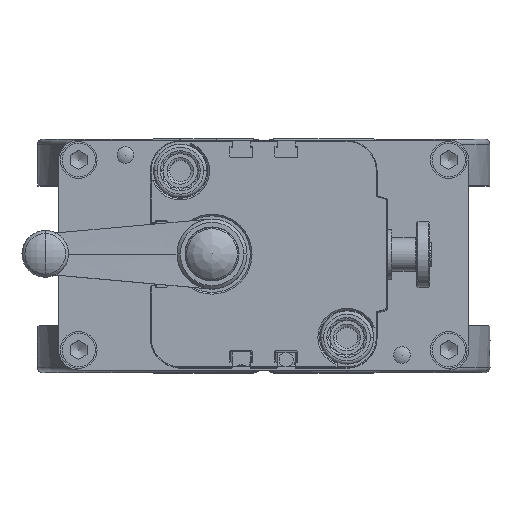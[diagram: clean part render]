
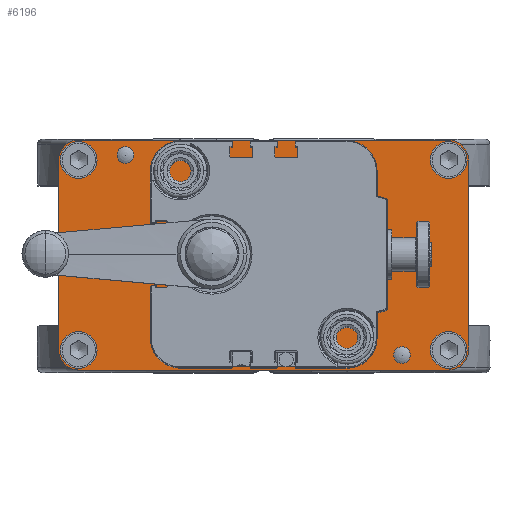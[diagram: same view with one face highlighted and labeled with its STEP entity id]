
A CAD part, top view. The second image highlights one B-rep face of the part: STEP entity #6196.
In plain terms, the highlighted planar face has unit normal (0, 0, 1).
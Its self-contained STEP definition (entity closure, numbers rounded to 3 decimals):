
#4150=FACE_BOUND('',#8778,.T.);
#4151=FACE_BOUND('',#8779,.T.);
#4152=FACE_BOUND('',#8780,.T.);
#4153=FACE_BOUND('',#8781,.T.);
#4154=FACE_BOUND('',#8782,.T.);
#4155=FACE_BOUND('',#8783,.T.);
#4156=FACE_BOUND('',#8784,.T.);
#4157=FACE_BOUND('',#8785,.T.);
#4158=FACE_BOUND('',#8786,.T.);
#4159=FACE_BOUND('',#8787,.T.);
#5320=CIRCLE('',#23964,15.006);
#5323=CIRCLE('',#23968,3.25);
#5324=CIRCLE('',#23969,6.);
#5325=CIRCLE('',#23970,6.);
#5326=CIRCLE('',#23971,6.);
#5327=CIRCLE('',#23972,6.);
#5328=CIRCLE('',#23973,3.25);
#5329=CIRCLE('',#23974,3.25);
#5330=CIRCLE('',#23975,2.488);
#5331=CIRCLE('',#23976,3.25);
#5332=CIRCLE('',#23977,3.25);
#5333=CIRCLE('',#23978,2.488);
#5334=CIRCLE('',#23979,3.25);
#6196=ADVANCED_FACE('',(#4150,#4151,#4152,#4153,#4154,#4155,#4156,#4157,
#4158,#4159),#7112,.F.);
#7112=PLANE('',#23980);
#8778=EDGE_LOOP('',(#14237));
#8779=EDGE_LOOP('',(#14238,#14239,#14240,#14241,#14242,#14243,#14244,#14245));
#8780=EDGE_LOOP('',(#14246));
#8781=EDGE_LOOP('',(#14247));
#8782=EDGE_LOOP('',(#14248));
#8783=EDGE_LOOP('',(#14249));
#8784=EDGE_LOOP('',(#14250));
#8785=EDGE_LOOP('',(#14251));
#8786=EDGE_LOOP('',(#14252));
#8787=EDGE_LOOP('',(#14253));
#10109=LINE('',#44206,#11709);
#10114=LINE('',#44216,#11714);
#10121=LINE('',#44236,#11721);
#10122=LINE('',#44242,#11722);
#11709=VECTOR('',#26158,1.);
#11714=VECTOR('',#26165,1.);
#11721=VECTOR('',#26184,1.);
#11722=VECTOR('',#26189,1.);
#14237=ORIENTED_EDGE('',*,*,#21181,.F.);
#14238=ORIENTED_EDGE('',*,*,#21182,.F.);
#14239=ORIENTED_EDGE('',*,*,#21183,.F.);
#14240=ORIENTED_EDGE('',*,*,#21171,.F.);
#14241=ORIENTED_EDGE('',*,*,#21184,.F.);
#14242=ORIENTED_EDGE('',*,*,#21185,.F.);
#14243=ORIENTED_EDGE('',*,*,#21186,.F.);
#14244=ORIENTED_EDGE('',*,*,#21166,.F.);
#14245=ORIENTED_EDGE('',*,*,#21187,.F.);
#14246=ORIENTED_EDGE('',*,*,#21188,.T.);
#14247=ORIENTED_EDGE('',*,*,#21189,.T.);
#14248=ORIENTED_EDGE('',*,*,#21190,.T.);
#14249=ORIENTED_EDGE('',*,*,#21191,.T.);
#14250=ORIENTED_EDGE('',*,*,#21174,.F.);
#14251=ORIENTED_EDGE('',*,*,#21192,.T.);
#14252=ORIENTED_EDGE('',*,*,#21193,.T.);
#14253=ORIENTED_EDGE('',*,*,#21194,.F.);
#19041=VERTEX_POINT('',#44205);
#19042=VERTEX_POINT('',#44207);
#19045=VERTEX_POINT('',#44215);
#19046=VERTEX_POINT('',#44217);
#19047=VERTEX_POINT('',#44222);
#19052=VERTEX_POINT('',#44235);
#19053=VERTEX_POINT('',#44237);
#19054=VERTEX_POINT('',#44238);
#19055=VERTEX_POINT('',#44241);
#19056=VERTEX_POINT('',#44243);
#19057=VERTEX_POINT('',#44247);
#19058=VERTEX_POINT('',#44249);
#19059=VERTEX_POINT('',#44251);
#19060=VERTEX_POINT('',#44253);
#19061=VERTEX_POINT('',#44255);
#19062=VERTEX_POINT('',#44257);
#19063=VERTEX_POINT('',#44259);
#21166=EDGE_CURVE('',#19041,#19042,#10109,.T.);
#21171=EDGE_CURVE('',#19045,#19046,#10114,.T.);
#21174=EDGE_CURVE('',#19047,#19047,#5320,.T.);
#21181=EDGE_CURVE('',#19052,#19052,#5323,.T.);
#21182=EDGE_CURVE('',#19053,#19054,#10121,.T.);
#21183=EDGE_CURVE('',#19046,#19053,#5324,.T.);
#21184=EDGE_CURVE('',#19055,#19045,#5325,.T.);
#21185=EDGE_CURVE('',#19056,#19055,#10122,.T.);
#21186=EDGE_CURVE('',#19042,#19056,#5326,.T.);
#21187=EDGE_CURVE('',#19054,#19041,#5327,.T.);
#21188=EDGE_CURVE('',#19057,#19057,#5328,.T.);
#21189=EDGE_CURVE('',#19058,#19058,#5329,.T.);
#21190=EDGE_CURVE('',#19059,#19059,#5330,.T.);
#21191=EDGE_CURVE('',#19060,#19060,#5331,.T.);
#21192=EDGE_CURVE('',#19061,#19061,#5332,.T.);
#21193=EDGE_CURVE('',#19062,#19062,#5333,.T.);
#21194=EDGE_CURVE('',#19063,#19063,#5334,.T.);
#23964=AXIS2_PLACEMENT_3D('',#44221,#26170,#26171);
#23968=AXIS2_PLACEMENT_3D('',#44234,#26182,#26183);
#23969=AXIS2_PLACEMENT_3D('',#44239,#26185,#26186);
#23970=AXIS2_PLACEMENT_3D('',#44240,#26187,#26188);
#23971=AXIS2_PLACEMENT_3D('',#44244,#26190,#26191);
#23972=AXIS2_PLACEMENT_3D('',#44245,#26192,#26193);
#23973=AXIS2_PLACEMENT_3D('',#44246,#26194,#26195);
#23974=AXIS2_PLACEMENT_3D('',#44248,#26196,#26197);
#23975=AXIS2_PLACEMENT_3D('',#44250,#26198,#26199);
#23976=AXIS2_PLACEMENT_3D('',#44252,#26200,#26201);
#23977=AXIS2_PLACEMENT_3D('',#44254,#26202,#26203);
#23978=AXIS2_PLACEMENT_3D('',#44256,#26204,#26205);
#23979=AXIS2_PLACEMENT_3D('',#44258,#26206,#26207);
#23980=AXIS2_PLACEMENT_3D('',#44260,#26208,#26209);
#26158=DIRECTION('',(-1.,0.,0.));
#26165=DIRECTION('',(1.,0.,0.));
#26170=DIRECTION('',(0.,0.,1.));
#26171=DIRECTION('',(1.,0.,0.));
#26182=DIRECTION('',(0.,0.,1.));
#26183=DIRECTION('',(-1.,0.,0.));
#26184=DIRECTION('',(0.,-1.,0.));
#26185=DIRECTION('',(0.,0.,-1.));
#26186=DIRECTION('',(1.,0.,0.));
#26187=DIRECTION('',(0.,0.,-1.));
#26188=DIRECTION('',(1.,0.,0.));
#26189=DIRECTION('',(0.,1.,0.));
#26190=DIRECTION('',(0.,0.,-1.));
#26191=DIRECTION('',(1.,0.,0.));
#26192=DIRECTION('',(0.,0.,-1.));
#26193=DIRECTION('',(1.,0.,0.));
#26194=DIRECTION('',(0.,0.,-1.));
#26195=DIRECTION('',(1.,0.,0.));
#26196=DIRECTION('',(0.,0.,-1.));
#26197=DIRECTION('',(1.,0.,0.));
#26198=DIRECTION('',(0.,0.,-1.));
#26199=DIRECTION('',(1.,0.,0.));
#26200=DIRECTION('',(0.,0.,-1.));
#26201=DIRECTION('',(1.,0.,0.));
#26202=DIRECTION('',(0.,0.,-1.));
#26203=DIRECTION('',(1.,0.,0.));
#26204=DIRECTION('',(0.,0.,-1.));
#26205=DIRECTION('',(1.,0.,0.));
#26206=DIRECTION('',(0.,0.,1.));
#26207=DIRECTION('',(-1.,0.,0.));
#26208=DIRECTION('',(0.,0.,-1.));
#26209=DIRECTION('',(-1.,0.,0.));
#44205=CARTESIAN_POINT('',(55.5,-34.5,8.5));
#44206=CARTESIAN_POINT('',(55.5,-34.5,8.5));
#44207=CARTESIAN_POINT('',(-55.5,-34.5,8.5));
#44215=CARTESIAN_POINT('',(-55.5,34.5,8.5));
#44216=CARTESIAN_POINT('',(-55.5,34.5,8.5));
#44217=CARTESIAN_POINT('',(55.5,34.5,8.5));
#44221=CARTESIAN_POINT('',(0.,0.,8.5));
#44222=CARTESIAN_POINT('',(15.006,0.,8.5));
#44234=CARTESIAN_POINT('',(25.,25.,8.5));
#44235=CARTESIAN_POINT('',(21.75,25.,8.5));
#44236=CARTESIAN_POINT('',(61.5,28.5,8.5));
#44237=CARTESIAN_POINT('',(61.5,28.5,8.5));
#44238=CARTESIAN_POINT('',(61.5,-28.5,8.5));
#44239=CARTESIAN_POINT('',(55.5,28.5,8.5));
#44240=CARTESIAN_POINT('',(-55.5,28.5,8.5));
#44241=CARTESIAN_POINT('',(-61.5,28.5,8.5));
#44242=CARTESIAN_POINT('',(-61.5,-28.5,8.5));
#44243=CARTESIAN_POINT('',(-61.5,-28.5,8.5));
#44244=CARTESIAN_POINT('',(-55.5,-28.5,8.5));
#44245=CARTESIAN_POINT('',(55.5,-28.5,8.5));
#44246=CARTESIAN_POINT('',(55.5,-28.5,8.5));
#44247=CARTESIAN_POINT('',(58.75,-28.5,8.5));
#44248=CARTESIAN_POINT('',(-55.5,-28.5,8.5));
#44249=CARTESIAN_POINT('',(-52.25,-28.5,8.5));
#44250=CARTESIAN_POINT('',(-41.5,30.,8.5));
#44251=CARTESIAN_POINT('',(-39.012,30.,8.5));
#44252=CARTESIAN_POINT('',(55.5,28.5,8.5));
#44253=CARTESIAN_POINT('',(58.75,28.5,8.5));
#44254=CARTESIAN_POINT('',(-55.5,28.5,8.5));
#44255=CARTESIAN_POINT('',(-52.25,28.5,8.5));
#44256=CARTESIAN_POINT('',(41.5,-30.,8.5));
#44257=CARTESIAN_POINT('',(43.988,-30.,8.5));
#44258=CARTESIAN_POINT('',(-25.,-25.,8.5));
#44259=CARTESIAN_POINT('',(-28.25,-25.,8.5));
#44260=CARTESIAN_POINT('',(55.5,-28.5,8.5));
